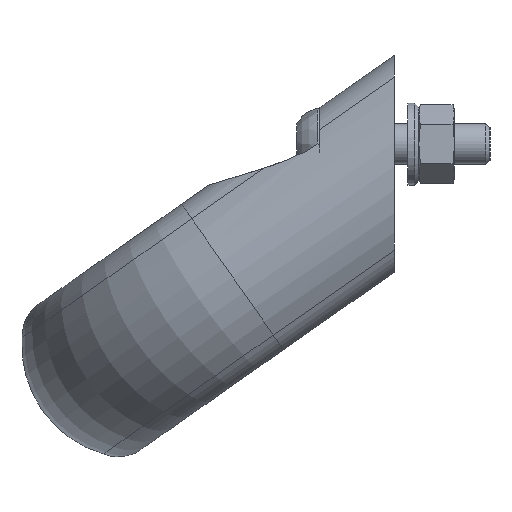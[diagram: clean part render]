
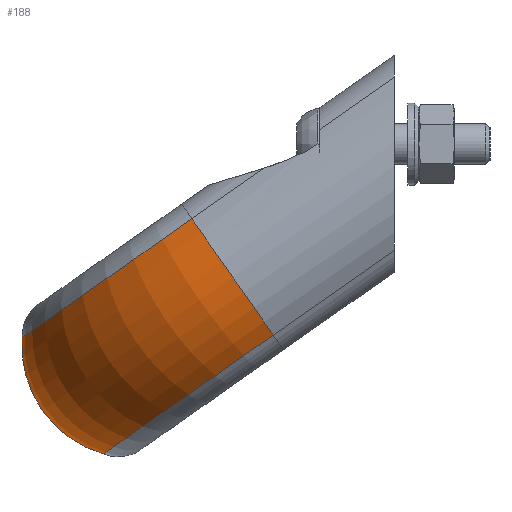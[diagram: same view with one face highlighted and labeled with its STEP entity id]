
A CAD part, left-side view. The second image highlights one B-rep face of the part: STEP entity #188.
In plain terms, the highlighted toroidal (fillet/blend) face has major radius 17.484 mm and minor radius 16.516 mm.
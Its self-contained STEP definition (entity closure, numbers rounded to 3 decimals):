
#188 = ADVANCED_FACE( '', ( #290 ), #291, .T. );
#290 = FACE_OUTER_BOUND( '', #501, .T. );
#291 = TOROIDAL_SURFACE( '', #502, 17.484, 16.516 );
#501 = EDGE_LOOP( '', ( #820, #821, #822, #823 ) );
#502 = AXIS2_PLACEMENT_3D( '', #824, #825, #826 );
#820 = ORIENTED_EDGE( '', *, *, #1421, .T. );
#821 = ORIENTED_EDGE( '', *, *, #1422, .F. );
#822 = ORIENTED_EDGE( '', *, *, #1423, .F. );
#823 = ORIENTED_EDGE( '', *, *, #1424, .T. );
#824 = CARTESIAN_POINT( '', ( -54.5, 23.653, -14.432 ) );
#825 = DIRECTION( '', ( 0., -0.574, -0.819 ) );
#826 = DIRECTION( '', ( 0., 0.819, -0.574 ) );
#1421 = EDGE_CURVE( '', #1624, #1625, #1626, .T. );
#1422 = EDGE_CURVE( '', #1627, #1625, #1628, .T. );
#1423 = EDGE_CURVE( '', #1629, #1627, #1630, .T. );
#1424 = EDGE_CURVE( '', #1629, #1624, #1631, .T. );
#1624 = VERTEX_POINT( '', #2032 );
#1625 = VERTEX_POINT( '', #2033 );
#1626 = CIRCLE( '', #2034, 30.334 );
#1627 = VERTEX_POINT( '', #2035 );
#1628 = CIRCLE( '', #2036, 16.516 );
#1629 = VERTEX_POINT( '', #2037 );
#1630 = CIRCLE( '', #2038, 30.334 );
#1631 = CIRCLE( '', #2039, 16.516 );
#2032 = CARTESIAN_POINT( '', ( -84.834, 29.605, -5.933 ) );
#2033 = CARTESIAN_POINT( '', ( -54.5, 54.453, -23.332 ) );
#2034 = AXIS2_PLACEMENT_3D( '', #2456, #2457, #2458 );
#2035 = CARTESIAN_POINT( '', ( -54.5, 42.55, -40.33 ) );
#2036 = AXIS2_PLACEMENT_3D( '', #2459, #2460, #2461 );
#2037 = CARTESIAN_POINT( '', ( -84.834, 17.702, -22.932 ) );
#2038 = AXIS2_PLACEMENT_3D( '', #2462, #2463, #2464 );
#2039 = AXIS2_PLACEMENT_3D( '', #2465, #2466, #2467 );
#2456 = CARTESIAN_POINT( '', ( -54.5, 29.605, -5.933 ) );
#2457 = DIRECTION( '', ( 0., -0.574, -0.819 ) );
#2458 = DIRECTION( '', ( 0., 0.819, -0.574 ) );
#2459 = CARTESIAN_POINT( '', ( -54.5, 37.976, -24.461 ) );
#2460 = DIRECTION( '', ( 1., 0., 0. ) );
#2461 = DIRECTION( '', ( 0., 0., -1. ) );
#2462 = CARTESIAN_POINT( '', ( -54.5, 17.702, -22.932 ) );
#2463 = DIRECTION( '', ( 0., -0.574, -0.819 ) );
#2464 = DIRECTION( '', ( 0., 0.819, -0.574 ) );
#2465 = CARTESIAN_POINT( '', ( -71.984, 23.653, -14.432 ) );
#2466 = DIRECTION( '', ( 0., 0.819, -0.574 ) );
#2467 = DIRECTION( '', ( -0.574, -0.47, -0.671 ) );
